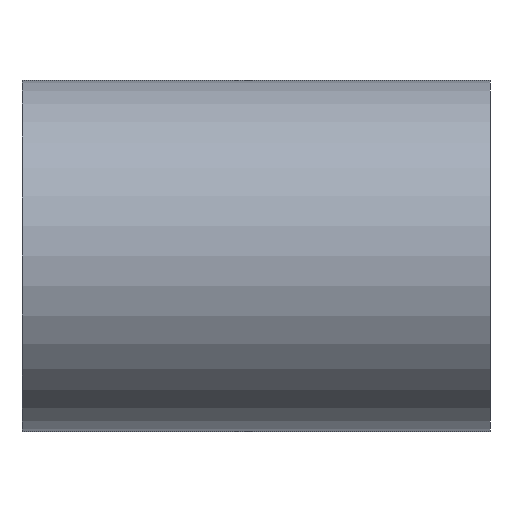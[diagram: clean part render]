
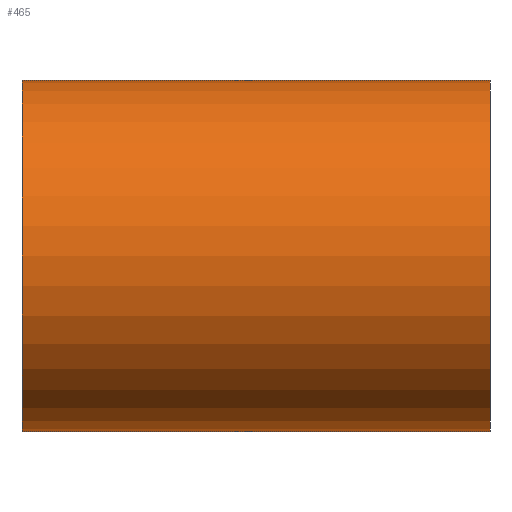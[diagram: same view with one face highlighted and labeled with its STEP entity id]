
A CAD part, front view. The second image highlights one B-rep face of the part: STEP entity #465.
In plain terms, the highlighted cylindrical face has radius 15 mm (diameter 30 mm), a partial arc.
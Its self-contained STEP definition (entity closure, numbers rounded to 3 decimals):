
#5 = EDGE_CURVE ( 'NONE', #821, #843, #820, .T. ) ;
#13 = CARTESIAN_POINT ( 'NONE',  ( 20., 0., 0. ) ) ;
#52 = EDGE_CURVE ( 'NONE', #307, #821, #340, .T. ) ;
#60 = ORIENTED_EDGE ( 'NONE', *, *, #5, .F. ) ;
#69 = LINE ( 'NONE', #421, #529 ) ;
#76 = CARTESIAN_POINT ( 'NONE',  ( -20., 0., -15. ) ) ;
#86 = CARTESIAN_POINT ( 'NONE',  ( 20., 0., 15. ) ) ;
#120 = ORIENTED_EDGE ( 'NONE', *, *, #52, .F. ) ;
#130 = DIRECTION ( 'NONE',  ( -1., 0., 0. ) ) ;
#145 = DIRECTION ( 'NONE',  ( -1., 0., 0. ) ) ;
#147 = DIRECTION ( 'NONE',  ( 0., 0., 1. ) ) ;
#153 = DIRECTION ( 'NONE',  ( -1., 0., 0. ) ) ;
#196 = CARTESIAN_POINT ( 'NONE',  ( 0., 0., -15. ) ) ;
#219 = CARTESIAN_POINT ( 'NONE',  ( 0., 0., 0. ) ) ;
#224 = FACE_OUTER_BOUND ( 'NONE', #830, .T. ) ;
#230 = VECTOR ( 'NONE', #130, 1000. ) ;
#253 = CARTESIAN_POINT ( 'NONE',  ( 20., 0., -15. ) ) ;
#278 = ORIENTED_EDGE ( 'NONE', *, *, #777, .T. ) ;
#298 = DIRECTION ( 'NONE',  ( -1., 0., 0. ) ) ;
#307 = VERTEX_POINT ( 'NONE', #253 ) ;
#316 = AXIS2_PLACEMENT_3D ( 'NONE', #219, #298, #361 ) ;
#335 = CARTESIAN_POINT ( 'NONE',  ( -20., 0., 0. ) ) ;
#340 = LINE ( 'NONE', #196, #230 ) ;
#361 = DIRECTION ( 'NONE',  ( 0., 0., 1. ) ) ;
#371 = AXIS2_PLACEMENT_3D ( 'NONE', #335, #145, #696 ) ;
#373 = CIRCLE ( 'NONE', #693, 15. ) ;
#421 = CARTESIAN_POINT ( 'NONE',  ( 0., 0., 15. ) ) ;
#465 = ADVANCED_FACE ( 'NONE', ( #224 ), #493, .T. ) ;
#493 = CYLINDRICAL_SURFACE ( 'NONE', #316, 15. ) ;
#495 = EDGE_CURVE ( 'NONE', #734, #843, #69, .T. ) ;
#529 = VECTOR ( 'NONE', #153, 1000. ) ;
#556 = ORIENTED_EDGE ( 'NONE', *, *, #495, .T. ) ;
#643 = DIRECTION ( 'NONE',  ( -1., 0., 0. ) ) ;
#693 = AXIS2_PLACEMENT_3D ( 'NONE', #13, #643, #147 ) ;
#696 = DIRECTION ( 'NONE',  ( 0., 0., 1. ) ) ;
#734 = VERTEX_POINT ( 'NONE', #86 ) ;
#777 = EDGE_CURVE ( 'NONE', #307, #734, #373, .T. ) ;
#820 = CIRCLE ( 'NONE', #371, 15. ) ;
#821 = VERTEX_POINT ( 'NONE', #76 ) ;
#830 = EDGE_LOOP ( 'NONE', ( #120, #278, #556, #60 ) ) ;
#843 = VERTEX_POINT ( 'NONE', #844 ) ;
#844 = CARTESIAN_POINT ( 'NONE',  ( -20., 0., 15. ) ) ;
